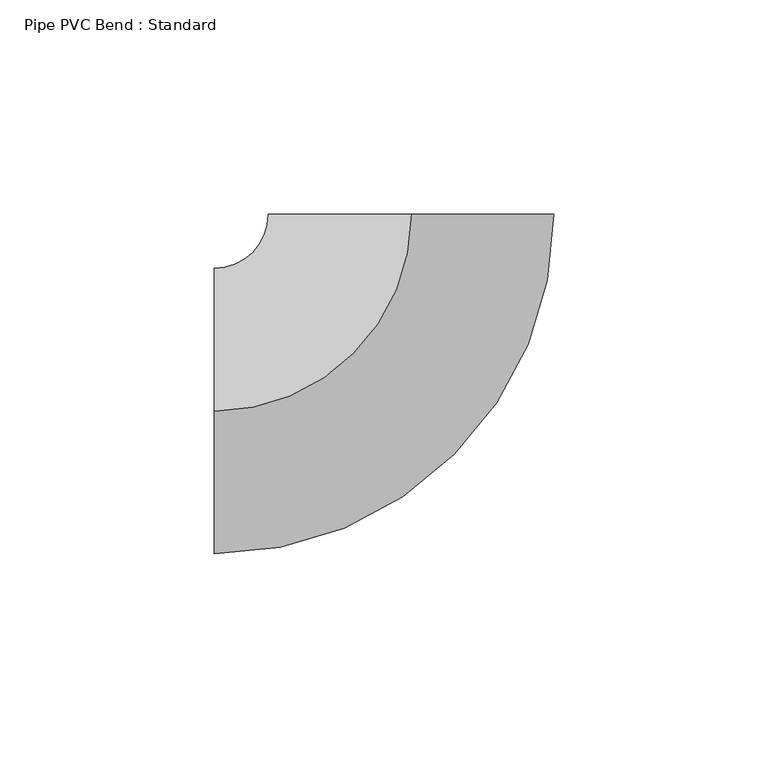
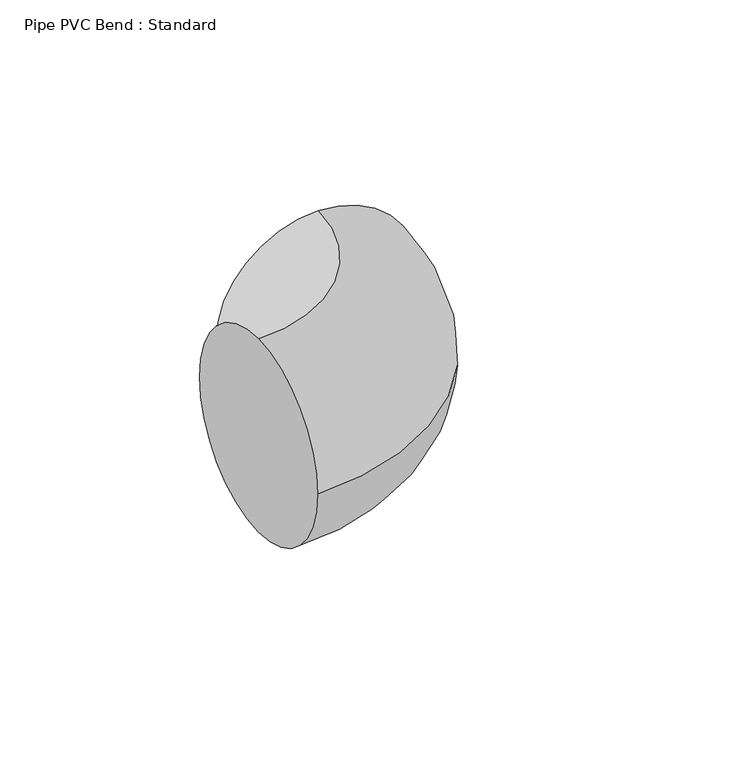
"""IFC4 building model written with IfcOpenShell, lengths in millimetres: pipe fitting geometry, Pipe PVC Bend : Standard."""

from ifc_helpers import new_model, si_unit, point, frame, origin, place, context, project, spatial, circle_curve, ellipse_curve, trimmed, source, transform, mapped, element, save
from ifc_brep_helpers import plane_surface, revolved_surface, advanced_brep


def pipe_pvc_bend_standard_b8b756f3(model_context):
    return source(origin(), model_context, "Body", "AdvancedBrep", [
        advanced_brep(
        [(-46.0320099, 0.0, 33.3375), (-46.0320099, 33.3375, 0.0), (-46.0320099, 0.0, -33.3375), (-46.0320099, -33.3375, 0.0), (0.0054898, 46.0320096, 33.3375), (33.3429895, 46.0280338, 0.0), (0.0054898, 46.0320096, -33.3375), (-33.33201, 46.0359854, 0.0)],
        [
            (0, 1, circle_curve(frame((-46.0320099, 0.0, 0.0), z_axis=(-1.0, 0.0, 0.0), x_axis=(0.0, 1.0, 0.0)), 33.3375)),
            (1, 2, circle_curve(frame((-46.0320099, 0.0, 0.0), z_axis=(-1.0, 0.0, 0.0), x_axis=(0.0, 1.0, 0.0)), 33.3375)),
            (2, 3, circle_curve(frame((-46.0320099, 0.0, 0.0), z_axis=(-1.0, 0.0, 0.0), x_axis=(0.0, 1.0, 0.0)), 33.3375)),
            (3, 0, circle_curve(frame((-46.0320099, 0.0, 0.0), z_axis=(-1.0, 0.0, 0.0), x_axis=(0.0, 1.0, 0.0)), 33.3375)),
            (4, 5, circle_curve(frame((0.0054898, 46.0320096, 0.0), z_axis=(0.00011925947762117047, 0.9999999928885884, 0.0), x_axis=(-0.9999999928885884, 0.00011925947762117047, 0.0)), 33.3375)),
            (5, 6, circle_curve(frame((0.0054898, 46.0320096, 0.0), z_axis=(0.00011925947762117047, 0.9999999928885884, 0.0), x_axis=(-0.9999999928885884, 0.00011925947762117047, 0.0)), 33.3375)),
            (6, 7, circle_curve(frame((0.0054898, 46.0320096, 0.0), z_axis=(0.00011925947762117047, 0.9999999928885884, 0.0), x_axis=(-0.9999999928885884, 0.00011925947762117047, 0.0)), 33.3375)),
            (7, 4, circle_curve(frame((0.0054898, 46.0320096, 0.0), z_axis=(0.00011925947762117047, 0.9999999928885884, 0.0), x_axis=(-0.9999999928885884, 0.00011925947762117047, 0.0)), 33.3375)),
            (7, 1, circle_curve(frame((-46.0320099, 46.0375, 0.0), z_axis=(0.0, 0.0, -1.0), x_axis=(0.0, -1.0, 0.0)), 12.7)),
            (0, 4, circle_curve(frame((-46.0320099, 46.0375, 33.3375), z_axis=(0.0, 0.0, 1.0), x_axis=(0.0, -1.0, 0.0)), 46.0375)),
            (6, 2, circle_curve(frame((-46.0320099, 46.0375, -33.3375), z_axis=(0.0, 0.0, -1.0), x_axis=(0.0, -1.0, 0.0)), 46.0375)),
            (5, 3, circle_curve(frame((-46.0320099, 46.0375, 0.0), z_axis=(0.0, 0.0, -1.0), x_axis=(0.0, -1.0, 0.0)), 79.375)),
        ],
        [
            plane_surface(frame((-46.0320099, 0.0, 0.0), z_axis=(-1.0, 0.0, 0.0), x_axis=(0.0, 0.0, 1.0))),
            plane_surface(frame((0.0054898, 46.0320096, 0.0), z_axis=(0.0001192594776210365, 0.9999999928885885, 0.0), x_axis=(0.0, 0.0, 1.0))),
            revolved_surface(trimmed(ellipse_curve(frame((-46.0320099, 0.0, 0.0), z_axis=(-1.0, 0.0, 0.0), x_axis=(0.0, 1.0, 0.0)), 33.3375, 33.3375), [point((-46.0320099, 0.0, 33.3375))], [point((-46.0320099, 33.3375, 0.0))], True, "CARTESIAN"), (-46.0320099, 46.0375, 0.0), (0.0, 0.0, 1.0)),
            revolved_surface(trimmed(ellipse_curve(frame((-46.0320099, 0.0, 0.0), z_axis=(-1.0, 0.0, 0.0), x_axis=(0.0, 1.0, 0.0)), 33.3375, 33.3375), [point((-46.0320099, 33.3375, 0.0))], [point((-46.0320099, 0.0, -33.3375))], True, "CARTESIAN"), (-46.0320099, 46.0375, 0.0), (0.0, 0.0, 1.0)),
            revolved_surface(trimmed(ellipse_curve(frame((-46.0320099, 0.0, 0.0), z_axis=(-1.0, 0.0, 0.0), x_axis=(0.0, 1.0, 0.0)), 33.3375, 33.3375), [point((-46.0320099, 0.0, -33.3375))], [point((-46.0320099, -33.3375, 0.0))], True, "CARTESIAN"), (-46.0320099, 46.0375, 0.0), (0.0, 0.0, 1.0)),
            revolved_surface(trimmed(ellipse_curve(frame((-46.0320099, 0.0, 0.0), z_axis=(-1.0, 0.0, 0.0), x_axis=(0.0, 1.0, 0.0)), 33.3375, 33.3375), [point((-46.0320099, -33.3375, 0.0))], [point((-46.0320099, 0.0, 33.3375))], True, "CARTESIAN"), (-46.0320099, 46.0375, 0.0), (0.0, 0.0, 1.0)),
        ],
        [
            (0, [[1, 2, 3, 4]]),
            (1, [[5, 6, 7, 8]]),
            (2, [[9, -1, 10, -8]]),
            (3, [[11, -2, -9, -7]]),
            (4, [[12, -3, -11, -6]]),
            (5, [[-10, -4, -12, -5]]),
        ],
    ),
        advanced_brep(
        [(-46.0320099, 0.0, 33.3375), (-46.0320099, 33.3375, 0.0), (-46.0320099, 0.0, -33.3375), (-46.0320099, -33.3375, 0.0), (0.0054898, 46.0320096, 33.3375), (33.3429895, 46.0280338, 0.0), (0.0054898, 46.0320096, -33.3375), (-33.33201, 46.0359854, 0.0)],
        [
            (0, 1, circle_curve(frame((-46.0320099, 0.0, 0.0), z_axis=(-1.0, 0.0, 0.0), x_axis=(0.0, 1.0, 0.0)), 33.3375)),
            (1, 2, circle_curve(frame((-46.0320099, 0.0, 0.0), z_axis=(-1.0, 0.0, 0.0), x_axis=(0.0, 1.0, 0.0)), 33.3375)),
            (2, 3, circle_curve(frame((-46.0320099, 0.0, 0.0), z_axis=(-1.0, 0.0, 0.0), x_axis=(0.0, 1.0, 0.0)), 33.3375)),
            (3, 0, circle_curve(frame((-46.0320099, 0.0, 0.0), z_axis=(-1.0, 0.0, 0.0), x_axis=(0.0, 1.0, 0.0)), 33.3375)),
            (4, 5, circle_curve(frame((0.0054898, 46.0320096, 0.0), z_axis=(0.00011925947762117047, 0.9999999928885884, 0.0), x_axis=(-0.9999999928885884, 0.00011925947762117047, 0.0)), 33.3375)),
            (5, 6, circle_curve(frame((0.0054898, 46.0320096, 0.0), z_axis=(0.00011925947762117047, 0.9999999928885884, 0.0), x_axis=(-0.9999999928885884, 0.00011925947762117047, 0.0)), 33.3375)),
            (6, 7, circle_curve(frame((0.0054898, 46.0320096, 0.0), z_axis=(0.00011925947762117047, 0.9999999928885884, 0.0), x_axis=(-0.9999999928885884, 0.00011925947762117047, 0.0)), 33.3375)),
            (7, 4, circle_curve(frame((0.0054898, 46.0320096, 0.0), z_axis=(0.00011925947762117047, 0.9999999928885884, 0.0), x_axis=(-0.9999999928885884, 0.00011925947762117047, 0.0)), 33.3375)),
            (7, 1, circle_curve(frame((-46.0320099, 46.0375, 0.0), z_axis=(0.0, 0.0, -1.0), x_axis=(0.0, -1.0, 0.0)), 12.7)),
            (0, 4, circle_curve(frame((-46.0320099, 46.0375, 33.3375), z_axis=(0.0, 0.0, 1.0), x_axis=(0.0, -1.0, 0.0)), 46.0375)),
            (6, 2, circle_curve(frame((-46.0320099, 46.0375, -33.3375), z_axis=(0.0, 0.0, -1.0), x_axis=(0.0, -1.0, 0.0)), 46.0375)),
            (5, 3, circle_curve(frame((-46.0320099, 46.0375, 0.0), z_axis=(0.0, 0.0, -1.0), x_axis=(0.0, -1.0, 0.0)), 79.375)),
        ],
        [
            plane_surface(frame((-46.0320099, 0.0, 0.0), z_axis=(-1.0, 0.0, 0.0), x_axis=(0.0, 0.0, 1.0))),
            plane_surface(frame((0.0054898, 46.0320096, 0.0), z_axis=(0.0001192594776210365, 0.9999999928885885, 0.0), x_axis=(0.0, 0.0, 1.0))),
            revolved_surface(trimmed(ellipse_curve(frame((-46.0320099, 0.0, 0.0), z_axis=(-1.0, 0.0, 0.0), x_axis=(0.0, 1.0, 0.0)), 33.3375, 33.3375), [point((-46.0320099, 0.0, 33.3375))], [point((-46.0320099, 33.3375, 0.0))], True, "CARTESIAN"), (-46.0320099, 46.0375, 0.0), (0.0, 0.0, 1.0)),
            revolved_surface(trimmed(ellipse_curve(frame((-46.0320099, 0.0, 0.0), z_axis=(-1.0, 0.0, 0.0), x_axis=(0.0, 1.0, 0.0)), 33.3375, 33.3375), [point((-46.0320099, 33.3375, 0.0))], [point((-46.0320099, 0.0, -33.3375))], True, "CARTESIAN"), (-46.0320099, 46.0375, 0.0), (0.0, 0.0, 1.0)),
            revolved_surface(trimmed(ellipse_curve(frame((-46.0320099, 0.0, 0.0), z_axis=(-1.0, 0.0, 0.0), x_axis=(0.0, 1.0, 0.0)), 33.3375, 33.3375), [point((-46.0320099, 0.0, -33.3375))], [point((-46.0320099, -33.3375, 0.0))], True, "CARTESIAN"), (-46.0320099, 46.0375, 0.0), (0.0, 0.0, 1.0)),
            revolved_surface(trimmed(ellipse_curve(frame((-46.0320099, 0.0, 0.0), z_axis=(-1.0, 0.0, 0.0), x_axis=(0.0, 1.0, 0.0)), 33.3375, 33.3375), [point((-46.0320099, -33.3375, 0.0))], [point((-46.0320099, 0.0, 33.3375))], True, "CARTESIAN"), (-46.0320099, 46.0375, 0.0), (0.0, 0.0, 1.0)),
        ],
        [
            (0, [[1, 2, 3, 4]]),
            (1, [[5, 6, 7, 8]]),
            (2, [[9, -1, 10, -8]]),
            (3, [[11, -2, -9, -7]]),
            (4, [[12, -3, -11, -6]]),
            (5, [[-10, -4, -12, -5]]),
        ],
    ),
    ])


if __name__ == "__main__":
    model = new_model("IFC4")
    model_context = context("Model", 3, world=origin())
    ifc_project = project(units=[si_unit("LENGTHUNIT", "METRE", prefix="MILLI")], contexts=[model_context])
    site = spatial("IfcSite", under=ifc_project)
    building = spatial("IfcBuilding", under=site)
    placement = place(None, origin())
    pipe_pvc_bend_standard_shape = pipe_pvc_bend_standard_b8b756f3(model_context)
    element("IfcPipeFitting", 1, ObjectType="Pipe PVC Bend : Standard", at=placement, inside=building, context=model_context, shape_type="MappedRepresentation", body=[
        mapped(pipe_pvc_bend_standard_shape, transform((0.0, 0.0, 0.0), x_axis=(1.0, 0.0, 0.0), y_axis=(0.0, 1.0, 0.0), z_axis=(0.0, 0.0, 1.0))),
    ])
    save(model, "model.ifc")
